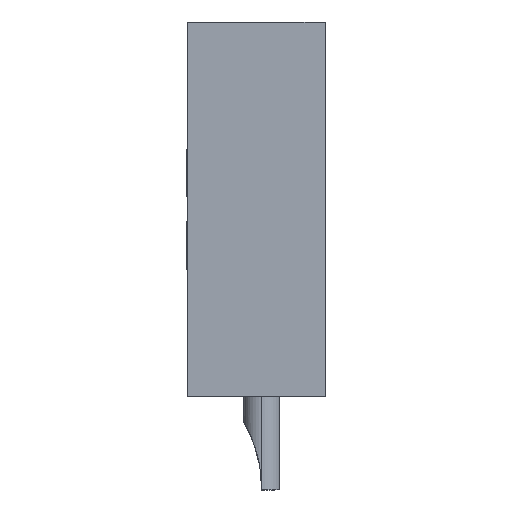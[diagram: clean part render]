
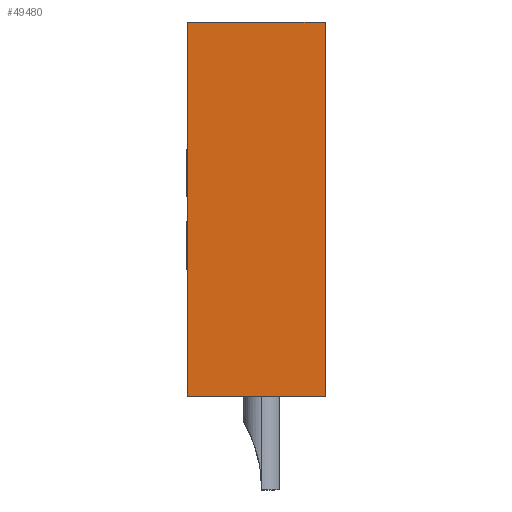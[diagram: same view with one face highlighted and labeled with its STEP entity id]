
A CAD part, left-side view. The second image highlights one B-rep face of the part: STEP entity #49480.
In plain terms, the highlighted planar face has unit normal (-1, 0, 0).
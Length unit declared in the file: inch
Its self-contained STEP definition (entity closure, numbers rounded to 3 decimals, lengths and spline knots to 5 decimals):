
#2056 = EDGE_CURVE ( 'NONE', #45111, #33768, #48396, .T. ) ;
#2657 = EDGE_CURVE ( 'NONE', #45111, #36292, #26653, .T. ) ;
#4724 = ORIENTED_EDGE ( 'NONE', *, *, #2657, .T. ) ;
#4967 = CARTESIAN_POINT ( 'NONE',  ( -0.9175, -0.0625, -0.34 ) ) ;
#6532 = ORIENTED_EDGE ( 'NONE', *, *, #2056, .F. ) ;
#9321 = CARTESIAN_POINT ( 'NONE',  ( -0.9175, -0.0625, 0. ) ) ;
#11182 = CARTESIAN_POINT ( 'NONE',  ( -0.9175, 0.0625, -0.34 ) ) ;
#11796 = CARTESIAN_POINT ( 'NONE',  ( -0.9175, -0.0625, -0.34 ) ) ;
#12107 = DIRECTION ( 'NONE',  ( 0., 0., 1. ) ) ;
#13309 = VECTOR ( 'NONE', #22657, 39.37008 ) ;
#14329 = EDGE_CURVE ( 'NONE', #36292, #49952, #49601, .T. ) ;
#16818 = VECTOR ( 'NONE', #12107, 39.37008 ) ;
#18036 = CARTESIAN_POINT ( 'NONE',  ( -0.9175, -0.0625, 0. ) ) ;
#21036 = VECTOR ( 'NONE', #31607, 39.37008 ) ;
#21943 = PLANE ( 'NONE',  #45649 ) ;
#22362 = ORIENTED_EDGE ( 'NONE', *, *, #38922, .F. ) ;
#22573 = CARTESIAN_POINT ( 'NONE',  ( -0.9175, -0.0625, -0.34 ) ) ;
#22657 = DIRECTION ( 'NONE',  ( 0., -1., 0. ) ) ;
#24126 = ORIENTED_EDGE ( 'NONE', *, *, #14329, .T. ) ;
#25454 = FACE_OUTER_BOUND ( 'NONE', #43978, .T. ) ;
#26254 = CARTESIAN_POINT ( 'NONE',  ( -0.9175, -0.0625, -0.34 ) ) ;
#26653 = LINE ( 'NONE', #22573, #21036 ) ;
#27608 = DIRECTION ( 'NONE',  ( 0., 0., 1. ) ) ;
#31607 = DIRECTION ( 'NONE',  ( 0., -1., 0. ) ) ;
#33768 = VERTEX_POINT ( 'NONE', #44178 ) ;
#33864 = CARTESIAN_POINT ( 'NONE',  ( -0.9175, 0.0625, -0.34 ) ) ;
#34532 = DIRECTION ( 'NONE',  ( -1., 0., 0. ) ) ;
#36292 = VERTEX_POINT ( 'NONE', #11796 ) ;
#38527 = LINE ( 'NONE', #18036, #13309 ) ;
#38922 = EDGE_CURVE ( 'NONE', #33768, #49952, #38527, .T. ) ;
#43978 = EDGE_LOOP ( 'NONE', ( #22362, #6532, #4724, #24126 ) ) ;
#44178 = CARTESIAN_POINT ( 'NONE',  ( -0.9175, 0.0625, 0. ) ) ;
#44505 = VECTOR ( 'NONE', #27608, 39.37008 ) ;
#45111 = VERTEX_POINT ( 'NONE', #33864 ) ;
#45649 = AXIS2_PLACEMENT_3D ( 'NONE', #26254, #34532, #51234 ) ;
#48396 = LINE ( 'NONE', #11182, #44505 ) ;
#49480 = ADVANCED_FACE ( 'NONE', ( #25454 ), #21943, .T. ) ;
#49601 = LINE ( 'NONE', #4967, #16818 ) ;
#49952 = VERTEX_POINT ( 'NONE', #9321 ) ;
#51234 = DIRECTION ( 'NONE',  ( 0., 0., 1. ) ) ;
